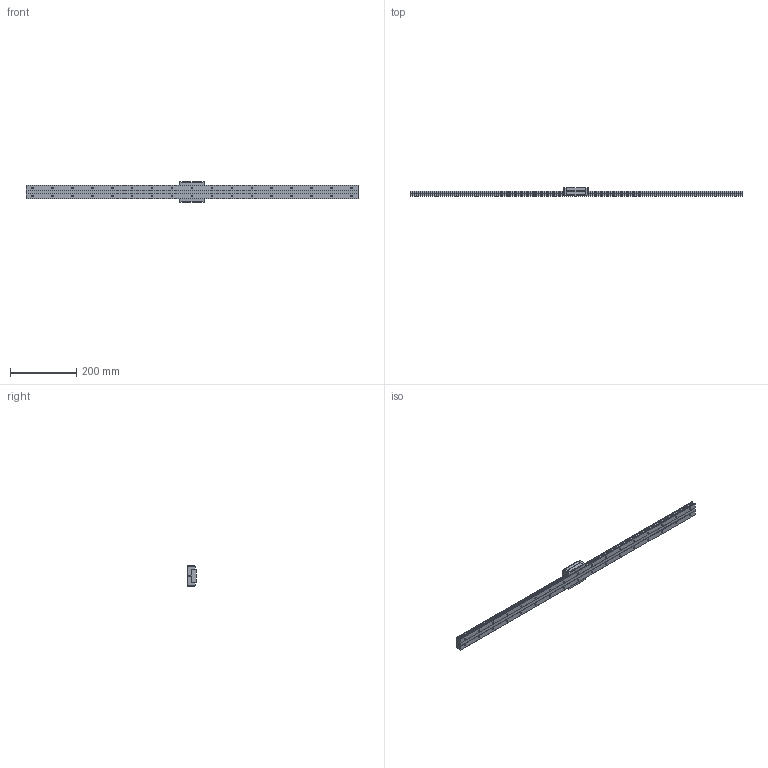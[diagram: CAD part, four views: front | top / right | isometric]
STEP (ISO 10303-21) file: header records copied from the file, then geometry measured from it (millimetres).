
FILE_DESCRIPTION( ( '' ), '1' );
FILE_NAME( 'C:/Users/v3-771-32344/Documents/Website 2016/STEP/SHW27CR1UU1000200463.6000.stp', '2016-11-10T12:46:19', ( '' ), ( '' ), ' ', ' ', ' ' );
FILE_SCHEMA( ( 'CONFIG_CONTROL_DESIGN' ) );
Length unit declared in the file: millimetre
Products named in the file (2): 1; 2
Bounding box: 1000 x 27 x 62 mm (x, y, z)
Volume: 643128.6 mm3; surface area: 143241.3 mm2
Topology: 2 solids, 2 shells, 334 faces, 852 edges, 548 vertices
Faces by surface type: cylinder 172, plane 130, cone 32
Entity records: 10304 total; most frequent: DIRECTION 1872, CARTESIAN_POINT 1720, ORIENTED_EDGE 1672, EDGE_CURVE 836, AXIS2_PLACEMENT_3D 700, VERTEX_POINT 548, LINE 472, VECTOR 472
